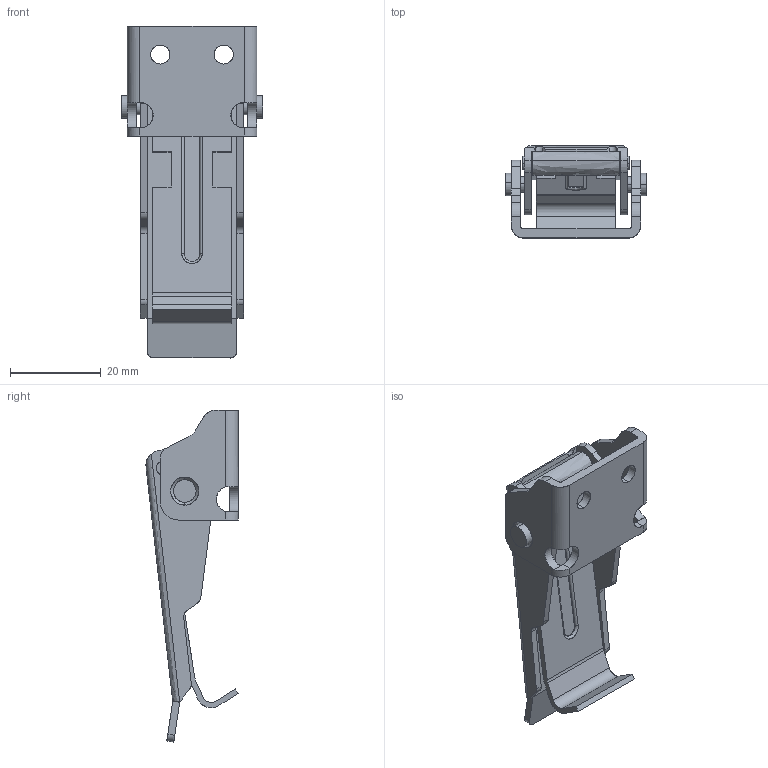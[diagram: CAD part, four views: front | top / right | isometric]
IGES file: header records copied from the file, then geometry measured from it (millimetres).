
Start section: SolidWorks IGES FILE using analytic representation for surfaces
Global section: file name: C:\Documents and Settings\brechard\Bureau\GE 67\GE 67.IGS; native system: SolidWorks 2001Plus by SolidWorks Corporation; preprocessor: Version 5.3; author: brechard; date: 050126.103510; units: millimetre
Bounding box: 31.2 x 20.4 x 73.33 mm (x, y, z)
Surface area: 10552 mm2 (no closed solid volume)
Topology: 0 solids, 0 shells, 238 faces, 2944 edges, 2944 vertices
Faces by surface type: revolution 120, bspline 118
